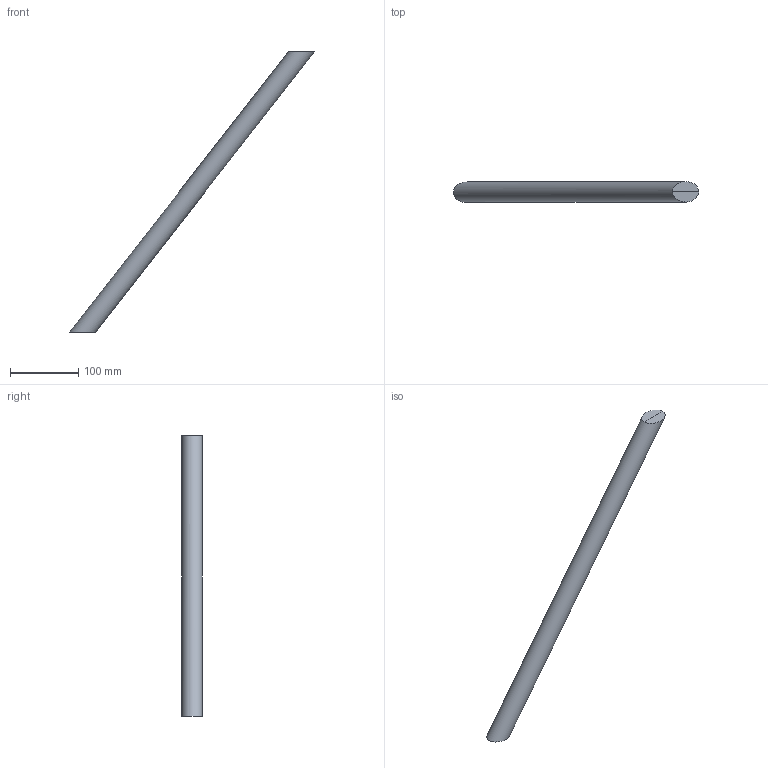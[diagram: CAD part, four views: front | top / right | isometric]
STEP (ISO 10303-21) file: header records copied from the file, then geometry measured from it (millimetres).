
FILE_DESCRIPTION(/* description */ (''),/* implementation_level */ '2;1');
FILE_NAME(/* name */ 'M:\Symbolen_NIEUW\STP\52-er truss\C52T\C52T-L500_111810009.stp',/* time_stamp */ '2017-12-15T15:54:16+01:00',/* author */ ('Kees'),/* organization */ (''),/* preprocessor_version */ 'ST-DEVELOPER v16.13',/* originating_system */ 'Autodesk Inventor 2018',/* authorisation */ '');
FILE_SCHEMA (('AUTOMOTIVE_DESIGN { 1 0 10303 214 3 1 1 }'));
Length unit declared in the file: millimetre
Products named in the file (1): 260001254
Bounding box: 358.4 x 29.96 x 410 mm (x, y, z)
Volume: 367776.6 mm3; surface area: 50830.9 mm2
Topology: 1 solids, 1 shells, 5 faces, 7 edges, 4 vertices
Faces by surface type: plane 4, cylinder 1
Full cylindrical faces by diameter (mm): 30 x1
Entity records: 170 total; most frequent: DIRECTION 22, CARTESIAN_POINT 16, ORIENTED_EDGE 12, AXIS2_PLACEMENT_3D 10, EDGE_LOOP 6, EDGE_CURVE 6, STYLED_ITEM 6, FACE_OUTER_BOUND 5
